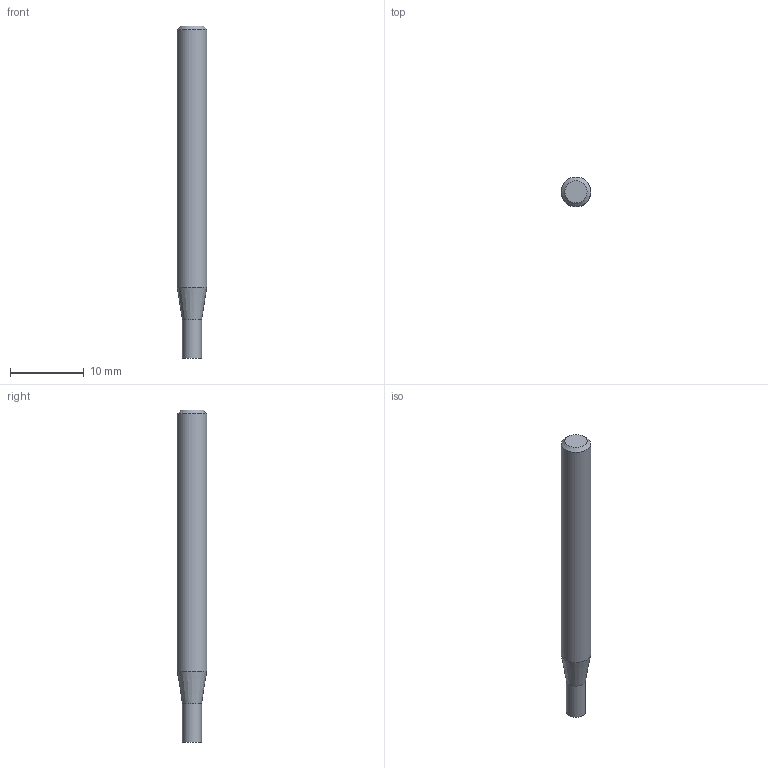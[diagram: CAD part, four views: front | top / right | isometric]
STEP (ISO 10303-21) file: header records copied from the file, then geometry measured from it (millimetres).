
FILE_DESCRIPTION((''),'2;1');
FILE_NAME('C:\Users\nsx150\AppData\Local\Temp\Mastercam 2021\QTW1OOEEGF\TEMP.step','2021-04-08T10:36:42',(''),(''),'STEP Write','Mastercam 2021 ... CNC Software, Inc.','');
FILE_SCHEMA(('AUTOMOTIVE_DESIGN'));
Length unit declared in the file: millimetre
Products named in the file (1): None
Bounding box: 4 x 4 x 45 mm (x, y, z)
Volume: 509.1 mm3; surface area: 558 mm2
Topology: 2 solids, 2 shells, 8 faces, 10 edges, 6 vertices
Faces by surface type: plane 4, cylinder 2, cone 2
Full cylindrical faces by diameter (mm): 2.6 x1, 4 x1
Entity records: 190 total; most frequent: DIRECTION 32, CARTESIAN_POINT 22, AXIS2_PLACEMENT_3D 16, ORIENTED_EDGE 12, EDGE_LOOP 12, STYLED_ITEM 11, ADVANCED_FACE 8, VERTEX_POINT 6
